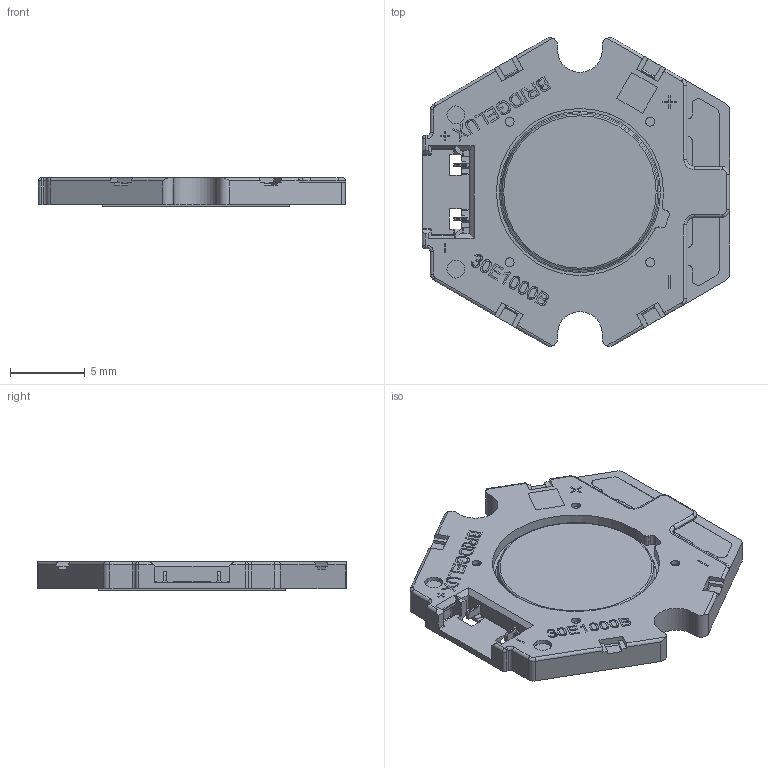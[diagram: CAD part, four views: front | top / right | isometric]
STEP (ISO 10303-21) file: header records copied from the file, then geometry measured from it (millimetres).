
FILE_DESCRIPTION (( 'STEP AP214' ), '1' );
FILE_NAME ('Vero10 assy revA.STEP', '2013-07-02T18:20:56', ( '' ), ( '' ), 'SwSTEP 2.0', 'SolidWorks 2013', '' );
FILE_SCHEMA (( 'AUTOMOTIVE_DESIGN' ));
Length unit declared in the file: millimetre
Products named in the file (10): Vero10 component assy; Vero10 component; Vero10 component LF4; Vero10 component LF3; Vero10 component LF2; Vero10 component LF1; Vero10 component body; Ph_Vero10; Base_Vero10_Round_Center; Vero10 assy revA
Assembly tree (9 placements, depth 4):
  Vero10 assy revA
    Base_Vero10_Round_Center
    Ph_Vero10
    Vero10 component assy
      Vero10 component
        Vero10 component body
        Vero10 component LF1
        Vero10 component LF2
        Vero10 component LF3
        Vero10 component LF4
Bounding box: 20.52 x 20.63 x 1.9 mm (x, y, z)
Volume: 497.2 mm3; surface area: 1381.9 mm2
Topology: 11 solids, 11 shells, 830 faces, 2204 edges, 1426 vertices
Faces by surface type: plane 453, cylinder 210, bspline 149, cone 14, torus 4
Entity records: 32795 total; most frequent: CARTESIAN_POINT 12460, ORIENTED_EDGE 4380, DIRECTION 3698, EDGE_CURVE 2190, LINE 1468, VECTOR 1468, VERTEX_POINT 1426, AXIS2_PLACEMENT_3D 1115
